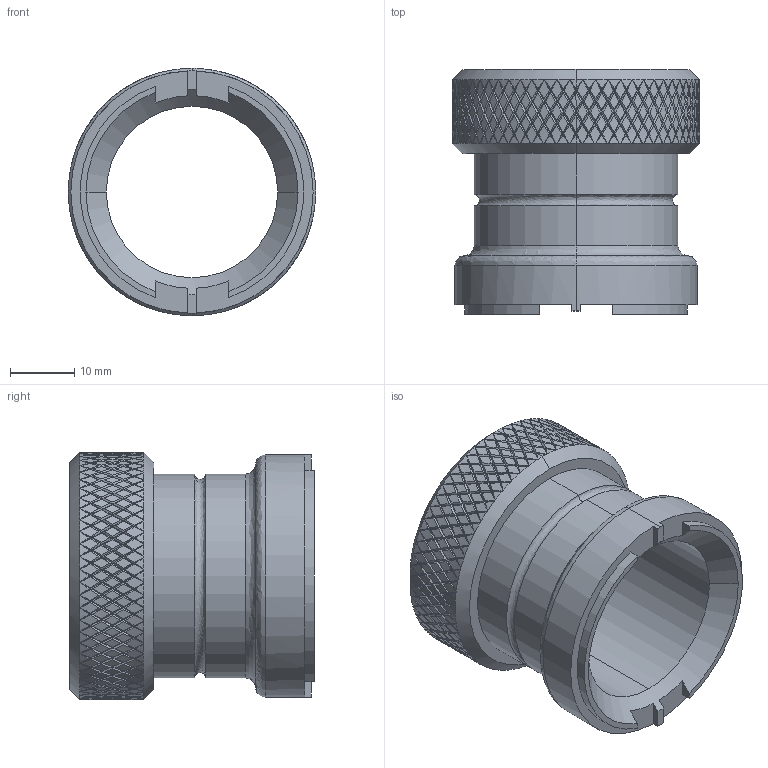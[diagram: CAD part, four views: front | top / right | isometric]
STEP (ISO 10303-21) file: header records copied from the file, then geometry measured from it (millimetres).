
FILE_DESCRIPTION (( 'STEP AP214' ), '1' );
FILE_NAME ('OW-150-137-SALES.STEP', '2013-05-29T15:40:37', ( 'Eng-4' ), ( 'Hewlett-Packard Company' ), 'SwSTEP 2.0', 'SolidWorks 2013', '' );
FILE_SCHEMA (( 'AUTOMOTIVE_DESIGN' ));
Length unit declared in the file: inch
Products named in the file (1): OW-150-137-SALES
Bounding box: 38.48 x 38.1 x 38.48 mm (x, y, z)
Volume: 15501.3 mm3; surface area: 9009.5 mm2
Topology: 1 solids, 1 shells, 1243 faces, 3822 edges, 2582 vertices
Faces by surface type: plane 857, cylinder 374, bspline 6, cone 6
Entity records: 42401 total; most frequent: CARTESIAN_POINT 12643, ORIENTED_EDGE 7644, DIRECTION 4893, EDGE_CURVE 3822, VERTEX_POINT 2582, LINE 1957, VECTOR 1957, AXIS2_PLACEMENT_3D 1468
